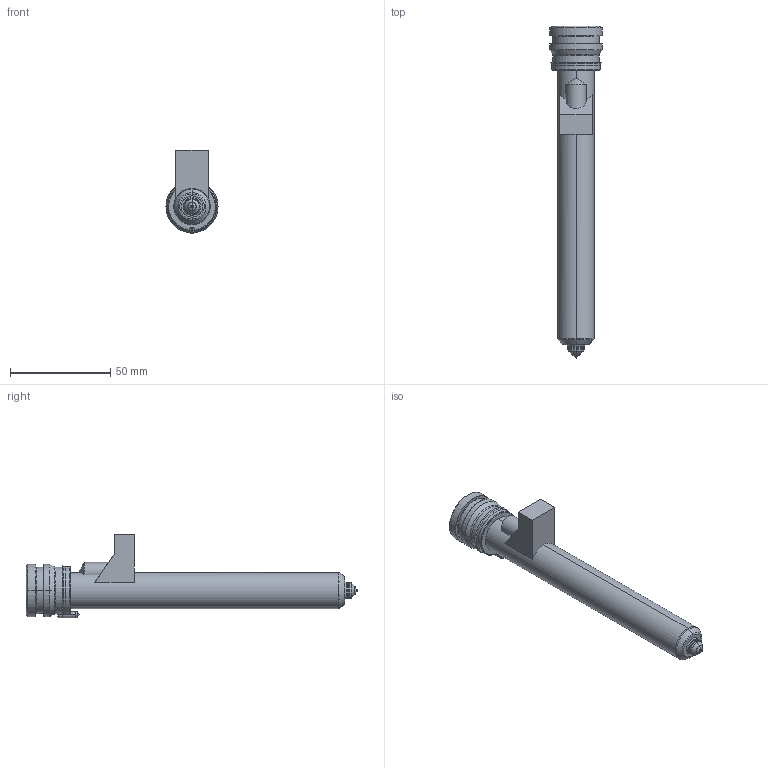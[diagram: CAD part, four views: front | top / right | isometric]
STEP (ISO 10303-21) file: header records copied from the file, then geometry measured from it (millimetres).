
FILE_DESCRIPTION((''),'2;1');
FILE_NAME('MPN-08-24-VX8-146-M','2026-02-05T13:31:31',('UPTIO'),('Thermoplay S.p.A.'),'CREO PARAMETRIC BY PTC INC, 2023494','CREO PARAMETRIC BY PTC INC, 2023494','');
FILE_SCHEMA(('CONFIG_CONTROL_DESIGN','SHAPE_APPEARANCE_LAYERS_GROUPS'));
Length unit declared in the file: millimetre
Products named in the file (1): MPN-08-24-VX8-146-M
Bounding box: 26 x 165.5 x 41.5 mm (x, y, z)
Volume: 31294.7 mm3; surface area: 41753.3 mm2
Topology: 2 solids, 3 shells, 529 faces, 1372 edges, 842 vertices
Faces by surface type: cylinder 174, plane 143, bspline 77, torus 60, cone 60, sphere 9, extrusion 6
Entity records: 27371 total; most frequent: CARTESIAN_POINT 11850, ORIENTED_EDGE 2726, DIRECTION 2495, EDGE_CURVE 1363, AXIS2_PLACEMENT_3D 975, VERTEX_POINT 842, EDGE_LOOP 559, VECTOR 545
